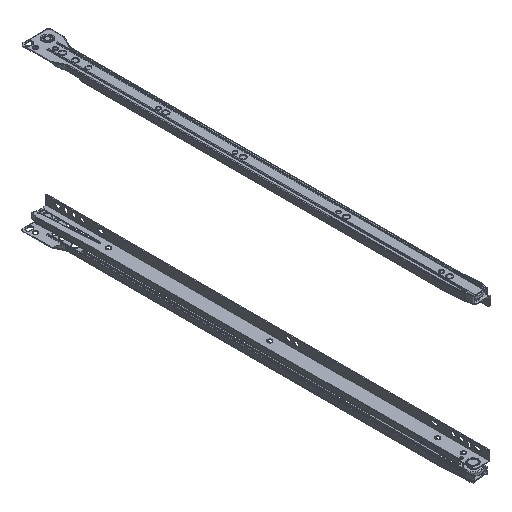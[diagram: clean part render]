
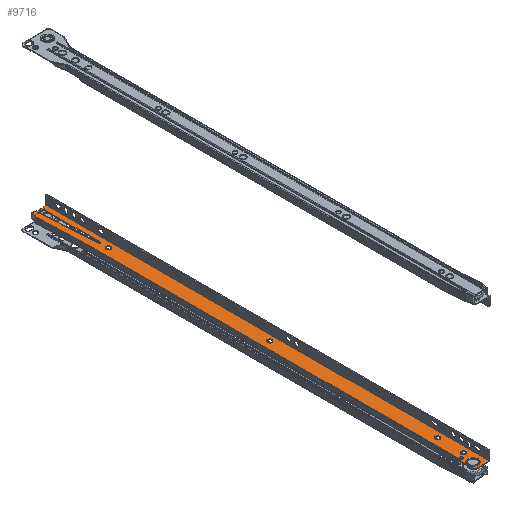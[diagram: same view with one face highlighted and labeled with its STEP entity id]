
A CAD part, isometric view. The second image highlights one B-rep face of the part: STEP entity #9716.
In plain terms, the highlighted planar face has unit normal (0, 0, 1) as drawn and (0, 0, -1) by its records, which use the part's own axes.
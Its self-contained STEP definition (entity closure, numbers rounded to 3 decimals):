
#451=ELLIPSE('',#10614,4.383,1.);
#915=LINE('',#15898,#1704);
#932=LINE('',#15964,#1721);
#949=LINE('',#16025,#1738);
#952=LINE('',#16037,#1741);
#957=LINE('',#16046,#1746);
#959=LINE('',#16053,#1748);
#960=LINE('',#16057,#1749);
#961=LINE('',#16061,#1750);
#962=LINE('',#16065,#1751);
#963=LINE('',#16067,#1752);
#964=LINE('',#16068,#1753);
#965=LINE('',#16081,#1754);
#966=LINE('',#16084,#1755);
#1704=VECTOR('',#12634,10.);
#1721=VECTOR('',#12691,10.);
#1738=VECTOR('',#12754,10.);
#1741=VECTOR('',#12769,10.);
#1746=VECTOR('',#12780,10.);
#1748=VECTOR('',#12788,10.);
#1749=VECTOR('',#12791,10.);
#1750=VECTOR('',#12794,10.);
#1751=VECTOR('',#12797,10.);
#1752=VECTOR('',#12798,10.);
#1753=VECTOR('',#12799,10.);
#1754=VECTOR('',#12810,10.);
#1755=VECTOR('',#12813,10.);
#2204=PLANE('',#10604);
#2438=FACE_BOUND('',#3580,.T.);
#2439=FACE_BOUND('',#3581,.T.);
#2440=FACE_BOUND('',#3582,.T.);
#2441=FACE_BOUND('',#3583,.T.);
#2442=FACE_BOUND('',#3584,.T.);
#2443=FACE_BOUND('',#3585,.T.);
#2894=FACE_OUTER_BOUND('',#3579,.T.);
#3579=EDGE_LOOP('',(#8131,#8132,#8133,#8134,#8135,#8136,#8137,#8138,#8139,
#8140,#8141,#8142,#8143,#8144,#8145,#8146,#8147));
#3580=EDGE_LOOP('',(#8148));
#3581=EDGE_LOOP('',(#8149));
#3582=EDGE_LOOP('',(#8150));
#3583=EDGE_LOOP('',(#8151));
#3584=EDGE_LOOP('',(#8152));
#3585=EDGE_LOOP('',(#8153,#8154,#8155,#8156));
#4116=CIRCLE('',#10553,2.75);
#4118=CIRCLE('',#10556,17.5);
#4144=CIRCLE('',#10598,9.5);
#4145=CIRCLE('',#10605,1.);
#4146=CIRCLE('',#10606,1.);
#4147=CIRCLE('',#10607,1.);
#4148=CIRCLE('',#10608,3.);
#4149=CIRCLE('',#10609,2.75);
#4150=CIRCLE('',#10610,2.75);
#4151=CIRCLE('',#10611,6.25);
#4152=CIRCLE('',#10612,2.75);
#4153=CIRCLE('',#10613,1.03);
#4827=VERTEX_POINT('',#15869);
#4837=VERTEX_POINT('',#15896);
#4839=VERTEX_POINT('',#15902);
#4840=VERTEX_POINT('',#15905);
#4843=VERTEX_POINT('',#15910);
#4866=VERTEX_POINT('',#15962);
#4887=VERTEX_POINT('',#16024);
#4890=VERTEX_POINT('',#16031);
#4891=VERTEX_POINT('',#16044);
#4892=VERTEX_POINT('',#16050);
#4893=VERTEX_POINT('',#16052);
#4894=VERTEX_POINT('',#16054);
#4895=VERTEX_POINT('',#16056);
#4896=VERTEX_POINT('',#16058);
#4897=VERTEX_POINT('',#16060);
#4898=VERTEX_POINT('',#16062);
#4899=VERTEX_POINT('',#16064);
#4900=VERTEX_POINT('',#16066);
#4901=VERTEX_POINT('',#16069);
#4902=VERTEX_POINT('',#16071);
#4903=VERTEX_POINT('',#16073);
#4904=VERTEX_POINT('',#16075);
#4905=VERTEX_POINT('',#16077);
#4906=VERTEX_POINT('',#16078);
#4907=VERTEX_POINT('',#16080);
#4908=VERTEX_POINT('',#16082);
#5974=EDGE_CURVE('',#4827,#4837,#915,.T.);
#5976=EDGE_CURVE('',#4839,#4839,#4116,.T.);
#5980=EDGE_CURVE('',#4843,#4840,#4118,.T.);
#6007=EDGE_CURVE('',#4866,#4843,#932,.T.);
#6036=EDGE_CURVE('',#4887,#4827,#949,.T.);
#6041=EDGE_CURVE('',#4890,#4887,#4144,.T.);
#6043=EDGE_CURVE('',#4866,#4890,#952,.T.);
#6048=EDGE_CURVE('',#4891,#4837,#957,.T.);
#6050=EDGE_CURVE('',#4892,#4891,#4145,.T.);
#6051=EDGE_CURVE('',#4893,#4892,#959,.T.);
#6052=EDGE_CURVE('',#4894,#4893,#4146,.T.);
#6053=EDGE_CURVE('',#4895,#4894,#960,.T.);
#6054=EDGE_CURVE('',#4896,#4895,#4147,.T.);
#6055=EDGE_CURVE('',#4897,#4896,#961,.T.);
#6056=EDGE_CURVE('',#4898,#4897,#4148,.T.);
#6057=EDGE_CURVE('',#4899,#4898,#962,.T.);
#6058=EDGE_CURVE('',#4900,#4899,#963,.T.);
#6059=EDGE_CURVE('',#4840,#4900,#964,.T.);
#6060=EDGE_CURVE('',#4901,#4901,#4149,.T.);
#6061=EDGE_CURVE('',#4902,#4902,#4150,.T.);
#6062=EDGE_CURVE('',#4903,#4903,#4151,.T.);
#6063=EDGE_CURVE('',#4904,#4904,#4152,.T.);
#6064=EDGE_CURVE('',#4905,#4906,#4153,.T.);
#6065=EDGE_CURVE('',#4907,#4905,#965,.T.);
#6066=EDGE_CURVE('',#4908,#4907,#451,.T.);
#6067=EDGE_CURVE('',#4906,#4908,#966,.T.);
#8131=ORIENTED_EDGE('',*,*,#5980,.F.);
#8132=ORIENTED_EDGE('',*,*,#6007,.F.);
#8133=ORIENTED_EDGE('',*,*,#6043,.T.);
#8134=ORIENTED_EDGE('',*,*,#6041,.T.);
#8135=ORIENTED_EDGE('',*,*,#6036,.T.);
#8136=ORIENTED_EDGE('',*,*,#5974,.T.);
#8137=ORIENTED_EDGE('',*,*,#6048,.F.);
#8138=ORIENTED_EDGE('',*,*,#6050,.F.);
#8139=ORIENTED_EDGE('',*,*,#6051,.F.);
#8140=ORIENTED_EDGE('',*,*,#6052,.F.);
#8141=ORIENTED_EDGE('',*,*,#6053,.F.);
#8142=ORIENTED_EDGE('',*,*,#6054,.F.);
#8143=ORIENTED_EDGE('',*,*,#6055,.F.);
#8144=ORIENTED_EDGE('',*,*,#6056,.F.);
#8145=ORIENTED_EDGE('',*,*,#6057,.F.);
#8146=ORIENTED_EDGE('',*,*,#6058,.F.);
#8147=ORIENTED_EDGE('',*,*,#6059,.F.);
#8148=ORIENTED_EDGE('',*,*,#5976,.F.);
#8149=ORIENTED_EDGE('',*,*,#6060,.F.);
#8150=ORIENTED_EDGE('',*,*,#6061,.F.);
#8151=ORIENTED_EDGE('',*,*,#6062,.F.);
#8152=ORIENTED_EDGE('',*,*,#6063,.F.);
#8153=ORIENTED_EDGE('',*,*,#6064,.F.);
#8154=ORIENTED_EDGE('',*,*,#6065,.F.);
#8155=ORIENTED_EDGE('',*,*,#6066,.F.);
#8156=ORIENTED_EDGE('',*,*,#6067,.F.);
#9716=ADVANCED_FACE('',(#2894,#2438,#2439,#2440,#2441,#2442,#2443),#2204,
 .T.);
#10553=AXIS2_PLACEMENT_3D('',#15903,#12639,#12640);
#10556=AXIS2_PLACEMENT_3D('',#15912,#12647,#12648);
#10598=AXIS2_PLACEMENT_3D('',#16034,#12764,#12765);
#10604=AXIS2_PLACEMENT_3D('',#16049,#12784,#12785);
#10605=AXIS2_PLACEMENT_3D('',#16051,#12786,#12787);
#10606=AXIS2_PLACEMENT_3D('',#16055,#12789,#12790);
#10607=AXIS2_PLACEMENT_3D('',#16059,#12792,#12793);
#10608=AXIS2_PLACEMENT_3D('',#16063,#12795,#12796);
#10609=AXIS2_PLACEMENT_3D('',#16070,#12800,#12801);
#10610=AXIS2_PLACEMENT_3D('',#16072,#12802,#12803);
#10611=AXIS2_PLACEMENT_3D('',#16074,#12804,#12805);
#10612=AXIS2_PLACEMENT_3D('',#16076,#12806,#12807);
#10613=AXIS2_PLACEMENT_3D('',#16079,#12808,#12809);
#10614=AXIS2_PLACEMENT_3D('',#16083,#12811,#12812);
#12634=DIRECTION('',(-1.,0.,0.));
#12639=DIRECTION('center_axis',(0.,0.,-1.));
#12640=DIRECTION('ref_axis',(-1.,0.,0.));
#12647=DIRECTION('center_axis',(0.,0.,-1.));
#12648=DIRECTION('ref_axis',(-1.,0.,0.));
#12691=DIRECTION('',(0.,1.,0.));
#12754=DIRECTION('',(-0.999,0.04,0.));
#12764=DIRECTION('center_axis',(0.,0.,-1.));
#12765=DIRECTION('ref_axis',(0.141,-0.99,0.));
#12769=DIRECTION('',(-0.948,-0.318,0.));
#12780=DIRECTION('',(0.,-1.,0.));
#12784=DIRECTION('center_axis',(0.,0.,-1.));
#12785=DIRECTION('ref_axis',(1.,0.,0.));
#12786=DIRECTION('center_axis',(0.,0.,-1.));
#12787=DIRECTION('ref_axis',(0.,1.,0.));
#12788=DIRECTION('',(1.,0.,0.));
#12789=DIRECTION('center_axis',(0.,0.,-1.));
#12790=DIRECTION('ref_axis',(-1.,0.,0.));
#12791=DIRECTION('',(0.,1.,0.));
#12792=DIRECTION('center_axis',(0.,0.,1.));
#12793=DIRECTION('ref_axis',(-1.,0.,0.));
#12794=DIRECTION('',(1.,0.,0.));
#12795=DIRECTION('center_axis',(0.,0.,1.));
#12796=DIRECTION('ref_axis',(0.,1.,0.));
#12797=DIRECTION('',(0.,-1.,0.));
#12798=DIRECTION('',(-1.,0.,0.));
#12799=DIRECTION('',(0.,1.,0.));
#12800=DIRECTION('center_axis',(0.,0.,-1.));
#12801=DIRECTION('ref_axis',(-1.,0.,0.));
#12802=DIRECTION('center_axis',(0.,0.,-1.));
#12803=DIRECTION('ref_axis',(-1.,0.,0.));
#12804=DIRECTION('center_axis',(0.,0.,-1.));
#12805=DIRECTION('ref_axis',(-1.,0.,0.));
#12806=DIRECTION('center_axis',(0.,0.,-1.));
#12807=DIRECTION('ref_axis',(-1.,0.,0.));
#12808=DIRECTION('center_axis',(0.,0.,-1.));
#12809=DIRECTION('ref_axis',(1.,-0.03,0.));
#12810=DIRECTION('',(-0.998,0.061,0.));
#12811=DIRECTION('center_axis',(0.,0.,-1.));
#12812=DIRECTION('ref_axis',(-0.03,-1.,0.));
#12813=DIRECTION('',(1.,0.,0.));
#15869=CARTESIAN_POINT('',(443.766,-28.491,0.));
#15896=CARTESIAN_POINT('',(-9.244,-28.491,0.));
#15898=CARTESIAN_POINT('',(116.58,-28.491,0.));
#15902=CARTESIAN_POINT('',(-3.494,-18.991,0.));
#15903=CARTESIAN_POINT('Origin',(-6.244,-18.991,0.));
#15905=CARTESIAN_POINT('',(518.756,-12.193,0.));
#15910=CARTESIAN_POINT('',(518.756,-26.737,0.));
#15912=CARTESIAN_POINT('Origin',(534.674,-19.465,0.));
#15962=CARTESIAN_POINT('',(518.756,-28.464,0.));
#15964=CARTESIAN_POINT('',(518.756,-31.991,0.));
#16024=CARTESIAN_POINT('',(508.941,-31.098,0.));
#16025=CARTESIAN_POINT('',(343.085,-24.464,0.));
#16031=CARTESIAN_POINT('',(512.339,-30.614,0.));
#16034=CARTESIAN_POINT('Origin',(509.321,-21.606,0.));
#16037=CARTESIAN_POINT('',(391.691,-71.031,0.));
#16044=CARTESIAN_POINT('',(-9.244,-24.991,0.));
#16046=CARTESIAN_POINT('',(-9.244,-24.991,0.));
#16049=CARTESIAN_POINT('Origin',(242.403,-20.175,0.));
#16050=CARTESIAN_POINT('',(-10.244,-23.991,0.));
#16051=CARTESIAN_POINT('Origin',(-10.244,-24.991,0.));
#16052=CARTESIAN_POINT('',(-11.244,-23.991,0.));
#16053=CARTESIAN_POINT('',(-11.244,-23.991,0.));
#16054=CARTESIAN_POINT('',(-12.244,-24.991,0.));
#16055=CARTESIAN_POINT('Origin',(-11.244,-24.991,0.));
#16056=CARTESIAN_POINT('',(-12.244,-28.991,0.));
#16057=CARTESIAN_POINT('',(-12.244,-28.991,0.));
#16058=CARTESIAN_POINT('',(-13.244,-29.991,0.));
#16059=CARTESIAN_POINT('Origin',(-13.244,-28.991,0.));
#16060=CARTESIAN_POINT('',(-28.244,-29.991,0.));
#16061=CARTESIAN_POINT('',(-28.244,-29.991,0.));
#16062=CARTESIAN_POINT('',(-31.244,-26.991,0.));
#16063=CARTESIAN_POINT('Origin',(-28.244,-26.991,0.));
#16064=CARTESIAN_POINT('',(-31.244,-11.991,0.));
#16065=CARTESIAN_POINT('',(-31.244,-10.991,0.));
#16066=CARTESIAN_POINT('',(518.756,-11.991,0.));
#16067=CARTESIAN_POINT('',(243.08,-11.991,0.));
#16068=CARTESIAN_POINT('',(518.756,-31.991,0.));
#16069=CARTESIAN_POINT('',(28.506,-18.991,0.));
#16070=CARTESIAN_POINT('Origin',(25.756,-18.991,0.));
#16071=CARTESIAN_POINT('',(236.506,-18.991,0.));
#16072=CARTESIAN_POINT('Origin',(233.756,-18.991,0.));
#16073=CARTESIAN_POINT('',(-15.994,-22.991,0.));
#16074=CARTESIAN_POINT('Origin',(-22.244,-22.991,0.));
#16075=CARTESIAN_POINT('',(436.506,-18.991,0.));
#16076=CARTESIAN_POINT('Origin',(433.756,-18.991,0.));
#16077=CARTESIAN_POINT('',(444.693,-20.049,0.));
#16078=CARTESIAN_POINT('',(444.756,-17.992,0.));
#16079=CARTESIAN_POINT('Origin',(444.756,-19.021,0.));
#16080=CARTESIAN_POINT('',(513.929,-24.249,0.));
#16081=CARTESIAN_POINT('',(378.541,-16.036,0.));
#16082=CARTESIAN_POINT('',(514.119,-17.992,0.));
#16083=CARTESIAN_POINT('Origin',(514.724,-21.142,0.));
#16084=CARTESIAN_POINT('',(343.58,-17.992,0.));
